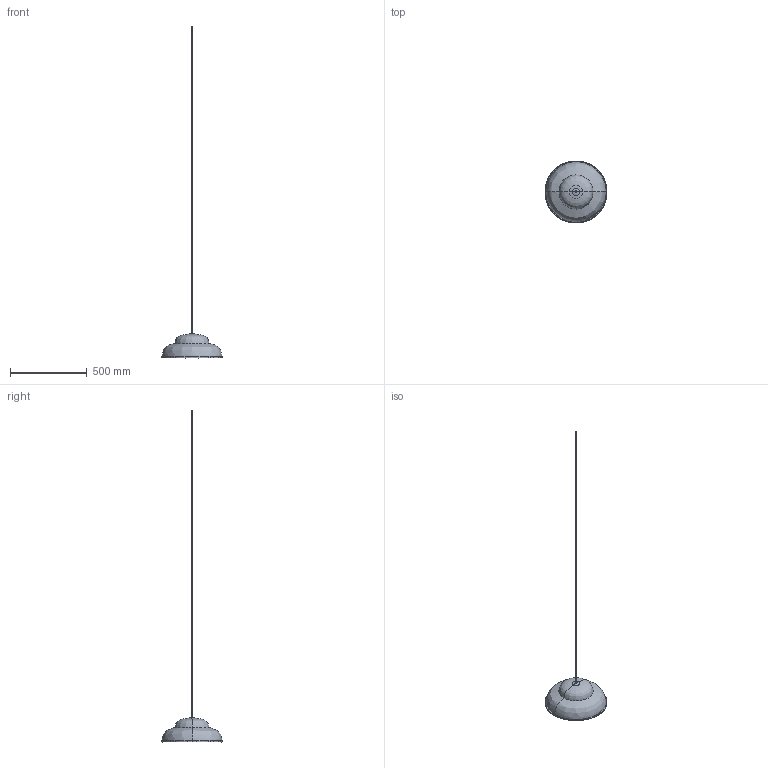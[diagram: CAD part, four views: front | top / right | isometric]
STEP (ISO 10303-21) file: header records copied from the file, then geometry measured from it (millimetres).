
FILE_DESCRIPTION(/* description */ (''),/* implementation_level */ '2;1');
FILE_NAME(/* name */ 'FROG40 V2 P',/* time_stamp */ '2026-08-05T17:33:55+09:00',/* author */ (''),/* organization */ (''),/* preprocessor_version */ 'ST-DEVELOPER v19.2',/* originating_system */ 'Rhino 8.21',/* authorisation */ '');
FILE_SCHEMA (('CONFIG_CONTROL_DESIGN'));
Length unit declared in the file: millimetre
Products named in the file (1): Document
Bounding box: 403.08 x 403.14 x 2159.04 mm (x, y, z)
Volume: 307925.6 mm3; surface area: 291800.7 mm2
Topology: 1 solids, 2 shells, 18 faces, 36 edges, 22 vertices
Faces by surface type: cylinder 8, bspline 6, plane 4
Entity records: 1084 total; most frequent: CARTESIAN_POINT 655, ORIENTED_EDGE 68, DIRECTION 62, AXIS2_PLACEMENT_3D 37, EDGE_CURVE 36, TRIMMED_CURVE 22, CIRCLE 22, VERTEX_POINT 22
